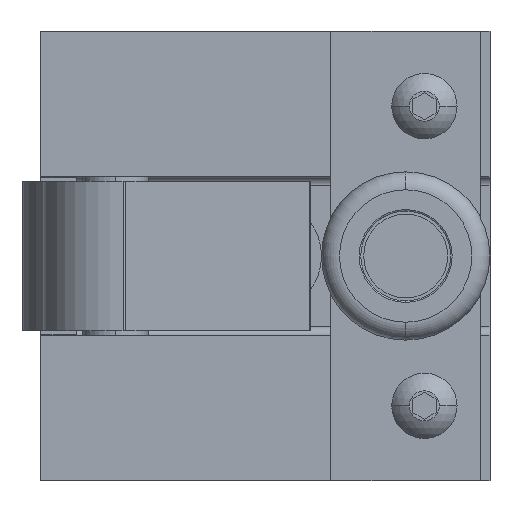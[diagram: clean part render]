
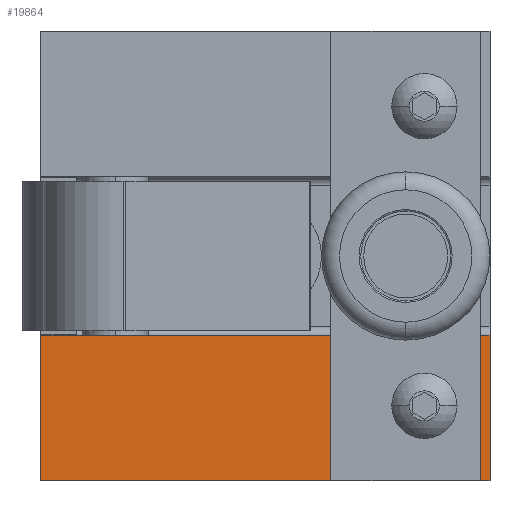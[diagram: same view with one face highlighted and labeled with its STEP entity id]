
A CAD part, left-side view. The second image highlights one B-rep face of the part: STEP entity #19864.
In plain terms, the highlighted planar face has unit normal (-1, 0, 0).
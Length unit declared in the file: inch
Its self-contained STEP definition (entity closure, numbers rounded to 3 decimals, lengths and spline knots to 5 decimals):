
#140 = VERTEX_POINT ( 'NONE', #12349 ) ;
#148 = VERTEX_POINT ( 'NONE', #12343 ) ;
#192 = VERTEX_POINT ( 'NONE', #12568 ) ;
#250 = VERTEX_POINT ( 'NONE', #12731 ) ;
#260 = EDGE_CURVE ( 'NONE', #250, #192, #12688, .T. ) ;
#284 = EDGE_CURVE ( 'NONE', #148, #140, #12650, .T. ) ;
#3725 = FACE_BOUND ( 'NONE', #19786, .T. ) ;
#3757 = DIRECTION ( 'NONE',  ( 0., 0., 1. ) ) ;
#3758 = VECTOR ( 'NONE', #3757, 39.37008 ) ;
#3759 = CARTESIAN_POINT ( 'NONE',  ( 5.66064, 2.77171, -3. ) ) ;
#3801 = DIRECTION ( 'NONE',  ( 0., 0., 1. ) ) ;
#3802 = DIRECTION ( 'NONE',  ( -1., 0., 0. ) ) ;
#3803 = CARTESIAN_POINT ( 'NONE',  ( 5.66064, 2.77171, -3. ) ) ;
#3804 = AXIS2_PLACEMENT_3D ( 'NONE', #3803, #3802, #3801 ) ;
#3823 = PLANE ( 'NONE',  #3804 ) ;
#3824 = FACE_OUTER_BOUND ( 'NONE', #19789, .T. ) ;
#3831 = LINE ( 'NONE', #3759, #3758 ) ;
#3832 = CARTESIAN_POINT ( 'NONE',  ( 5.66064, 2.77171, -3. ) ) ;
#4299 = DIRECTION ( 'NONE',  ( 0., -1., 0. ) ) ;
#4300 = VECTOR ( 'NONE', #4299, 39.37008 ) ;
#4301 = CARTESIAN_POINT ( 'NONE',  ( 5.66064, 2.77171, -3. ) ) ;
#4302 = LINE ( 'NONE', #4301, #4300 ) ;
#4318 = CARTESIAN_POINT ( 'NONE',  ( 5.66064, 2.77171, -2.03 ) ) ;
#4319 = DIRECTION ( 'NONE',  ( 0., -1., 0. ) ) ;
#4320 = VECTOR ( 'NONE', #4319, 39.37008 ) ;
#4321 = CARTESIAN_POINT ( 'NONE',  ( 5.66064, 2.77171, -2.03 ) ) ;
#4322 = LINE ( 'NONE', #4321, #4320 ) ;
#4378 = AXIS2_PLACEMENT_3D ( 'NONE', #4395, #4394, #4393 ) ;
#4393 = DIRECTION ( 'NONE',  ( 0., 0., 1. ) ) ;
#4394 = DIRECTION ( 'NONE',  ( -1., 0., 0. ) ) ;
#4395 = CARTESIAN_POINT ( 'NONE',  ( 5.66064, 3.20971, -2.5 ) ) ;
#4444 = CIRCLE ( 'NONE', #4378, 0.125 ) ;
#12343 = CARTESIAN_POINT ( 'NONE',  ( 5.66064, 3.20971, -2.625 ) ) ;
#12349 = CARTESIAN_POINT ( 'NONE',  ( 5.66064, 3.20971, -2.375 ) ) ;
#12568 = CARTESIAN_POINT ( 'NONE',  ( 5.66064, 5.77171, -2.03 ) ) ;
#12646 = DIRECTION ( 'NONE',  ( 0., 0., 1. ) ) ;
#12647 = DIRECTION ( 'NONE',  ( -1., 0., 0. ) ) ;
#12648 = CARTESIAN_POINT ( 'NONE',  ( 5.66064, 3.20971, -2.5 ) ) ;
#12649 = AXIS2_PLACEMENT_3D ( 'NONE', #12648, #12647, #12646 ) ;
#12650 = CIRCLE ( 'NONE', #12649, 0.125 ) ;
#12674 = DIRECTION ( 'NONE',  ( 0., 0., 1. ) ) ;
#12675 = VECTOR ( 'NONE', #12674, 39.37008 ) ;
#12676 = CARTESIAN_POINT ( 'NONE',  ( 5.66064, 5.77171, -3. ) ) ;
#12688 = LINE ( 'NONE', #12676, #12675 ) ;
#12731 = CARTESIAN_POINT ( 'NONE',  ( 5.66064, 5.77171, -3. ) ) ;
#19786 = EDGE_LOOP ( 'NONE', ( #20093, #19788 ) ) ;
#19788 = ORIENTED_EDGE ( 'NONE', *, *, #284, .F. ) ;
#19789 = EDGE_LOOP ( 'NONE', ( #20049, #19865, #19965, #19842 ) ) ;
#19841 = VERTEX_POINT ( 'NONE', #3832 ) ;
#19842 = ORIENTED_EDGE ( 'NONE', *, *, #19843, .T. ) ;
#19843 = EDGE_CURVE ( 'NONE', #19841, #20051, #3831, .T. ) ;
#19864 = ADVANCED_FACE ( 'NONE', ( #3725, #3824 ), #3823, .T. ) ;
#19865 = ORIENTED_EDGE ( 'NONE', *, *, #260, .F. ) ;
#19965 = ORIENTED_EDGE ( 'NONE', *, *, #20018, .T. ) ;
#20018 = EDGE_CURVE ( 'NONE', #250, #19841, #4302, .T. ) ;
#20049 = ORIENTED_EDGE ( 'NONE', *, *, #20050, .F. ) ;
#20050 = EDGE_CURVE ( 'NONE', #192, #20051, #4322, .T. ) ;
#20051 = VERTEX_POINT ( 'NONE', #4318 ) ;
#20093 = ORIENTED_EDGE ( 'NONE', *, *, #20094, .F. ) ;
#20094 = EDGE_CURVE ( 'NONE', #140, #148, #4444, .T. ) ;
